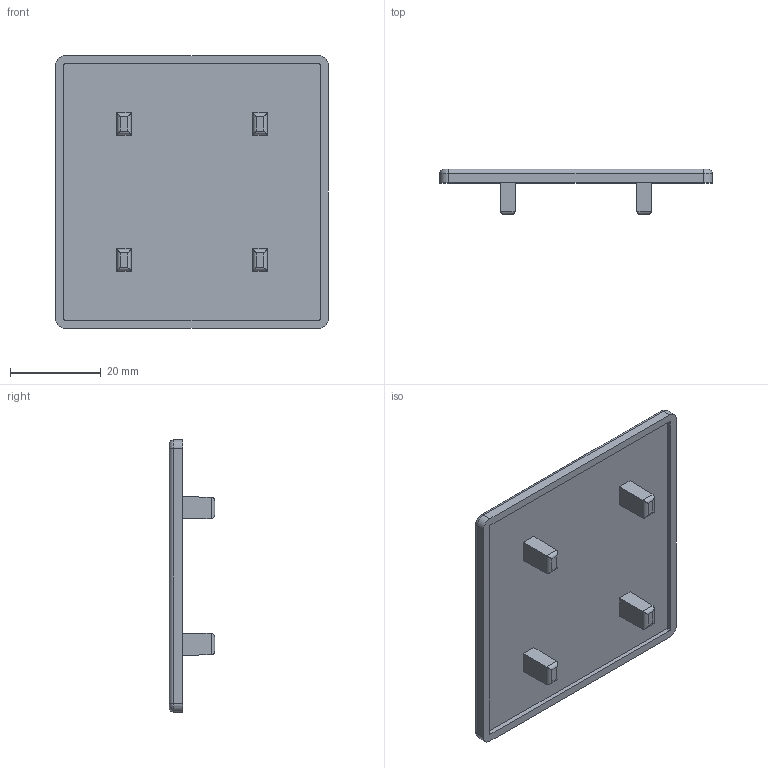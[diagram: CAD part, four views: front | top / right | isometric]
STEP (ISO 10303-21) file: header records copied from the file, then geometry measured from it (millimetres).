
FILE_DESCRIPTION (( 'STEP AP214' ), '1' );
FILE_NAME ('J3C66.step', '2017-05-24T07:38:34', ( 'admin' ), ( '' ), 'SwSTEP 2.0', 'SolidWorks 2014', '' );
FILE_SCHEMA (( 'AUTOMOTIVE_DESIGN' ));
Length unit declared in the file: millimetre
Products named in the file (1): J3C66
Bounding box: 60 x 10 x 60 mm (x, y, z)
Volume: 8046.4 mm3; surface area: 8512.3 mm2
Topology: 1 solids, 1 shells, 63 faces, 144 edges, 88 vertices
Faces by surface type: plane 31, cylinder 28, torus 4
Entity records: 1768 total; most frequent: CARTESIAN_POINT 344, ORIENTED_EDGE 288, DIRECTION 284, EDGE_CURVE 144, LINE 100, VECTOR 100, AXIS2_PLACEMENT_3D 92, VERTEX_POINT 88
